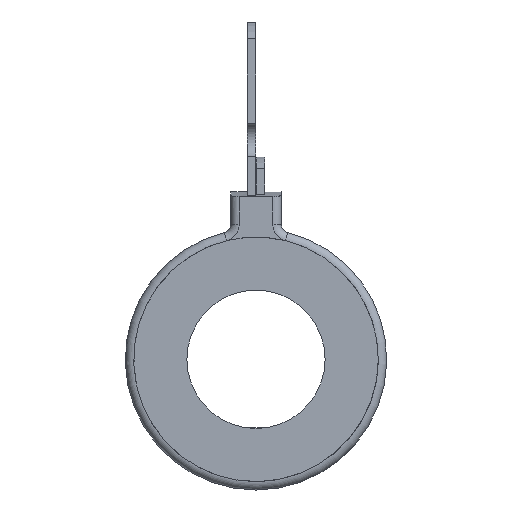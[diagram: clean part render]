
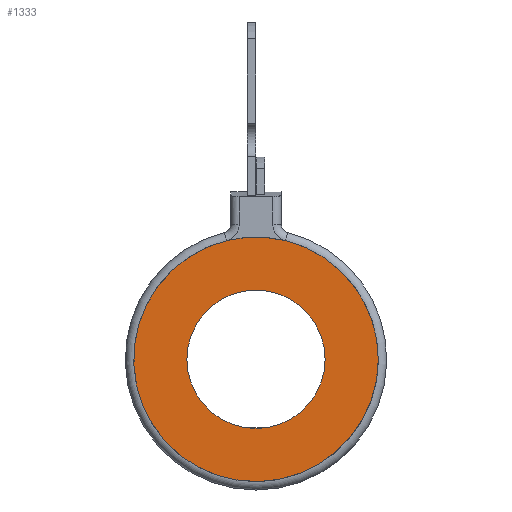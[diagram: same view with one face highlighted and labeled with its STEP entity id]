
A CAD part, front view. The second image highlights one B-rep face of the part: STEP entity #1333.
In plain terms, the highlighted planar face has unit normal (0, -1, 0).
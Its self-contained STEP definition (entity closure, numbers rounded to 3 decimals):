
#81=FACE_BOUND($,#249,.T.);
#155=FACE_OUTER_BOUND($,#248,.T.);
#248=EDGE_LOOP($,(#1142));
#249=EDGE_LOOP($,(#1143));
#498=CIRCLE($,#1481,7.25);
#503=CIRCLE($,#1493,4.1);
#604=VERTEX_POINT($,#2303);
#615=VERTEX_POINT($,#2336);
#776=EDGE_CURVE($,#604,#604,#498,.T.);
#791=EDGE_CURVE($,#615,#615,#503,.T.);
#1142=ORIENTED_EDGE($,*,*,#776,.T.);
#1143=ORIENTED_EDGE($,*,*,#791,.T.);
#1178=PLANE($,#1495);
#1333=ADVANCED_FACE($,(#155,#81),#1178,.T.);
#1481=AXIS2_PLACEMENT_3D($,#2304,#1862,#1863);
#1493=AXIS2_PLACEMENT_3D($,#2337,#1896,#1897);
#1495=AXIS2_PLACEMENT_3D($,#2339,#1900,#1901);
#1862=DIRECTION('center_axis',(0.,-1.,0.));
#1863=DIRECTION('ref_axis',(-1.,0.,0.));
#1896=DIRECTION('center_axis',(0.,1.,0.));
#1897=DIRECTION('ref_axis',(1.,0.,0.));
#1900=DIRECTION('center_axis',(0.,-1.,0.));
#1901=DIRECTION('ref_axis',(0.,0.,-1.));
#2303=CARTESIAN_POINT('',(7.25,0.,0.));
#2304=CARTESIAN_POINT('Origin',(0.,0.,0.));
#2336=CARTESIAN_POINT('',(-4.1,0.,0.));
#2337=CARTESIAN_POINT('Origin',(0.,0.,0.));
#2339=CARTESIAN_POINT('Origin',(0.,0.,0.));
